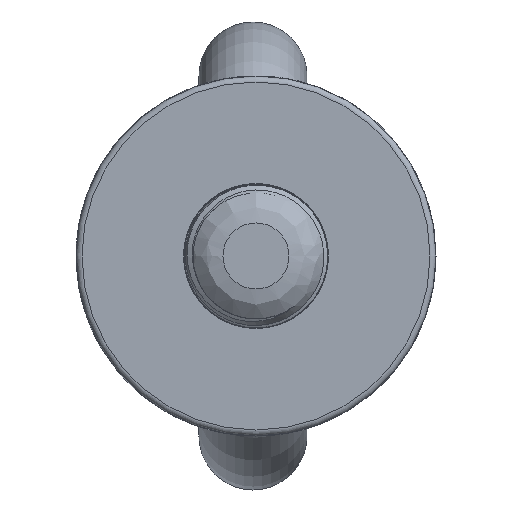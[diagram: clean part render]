
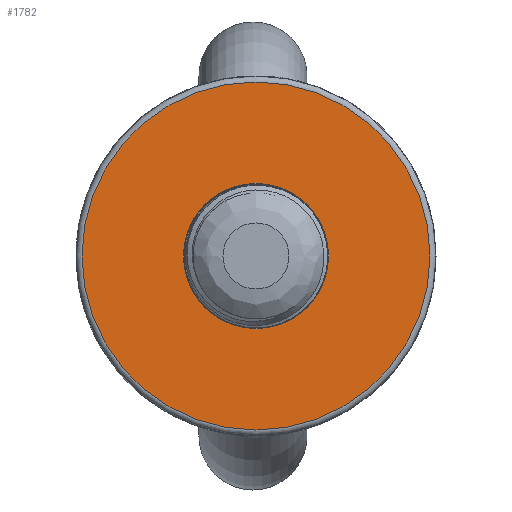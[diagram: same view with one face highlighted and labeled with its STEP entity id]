
A CAD part, front view. The second image highlights one B-rep face of the part: STEP entity #1782.
In plain terms, the highlighted planar face has unit normal (0, -1, 0).
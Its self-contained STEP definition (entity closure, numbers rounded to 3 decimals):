
#212=PLANE('',#5418);
#1782=ADVANCED_FACE('',(#2078,#2079),#212,.F.);
#2078=FACE_BOUND('',#2221,.T.);
#2079=FACE_BOUND('',#2222,.T.);
#2221=EDGE_LOOP('',(#2988));
#2222=EDGE_LOOP('',(#2989));
#2988=ORIENTED_EDGE('',*,*,#4783,.F.);
#2989=ORIENTED_EDGE('',*,*,#4782,.T.);
#4224=VERTEX_POINT('',#9797);
#4225=VERTEX_POINT('',#9800);
#4782=EDGE_CURVE('',#4224,#4224,#5245,.T.);
#4783=EDGE_CURVE('',#4225,#4225,#5246,.T.);
#5245=CIRCLE('',#5415,29.);
#5246=CIRCLE('',#5417,12.1);
#5415=AXIS2_PLACEMENT_3D('',#9796,#5996,#5997);
#5417=AXIS2_PLACEMENT_3D('',#9799,#6000,#6001);
#5418=AXIS2_PLACEMENT_3D('',#9801,#6002,#6003);
#5996=DIRECTION('',(0.,-1.,0.));
#5997=DIRECTION('',(1.,0.,0.));
#6000=DIRECTION('',(0.,-1.,0.));
#6001=DIRECTION('',(1.,0.,0.));
#6002=DIRECTION('',(0.,1.,0.));
#6003=DIRECTION('',(-1.,0.,0.));
#9796=CARTESIAN_POINT('',(0.,-10.5,0.));
#9797=CARTESIAN_POINT('',(29.,-10.5,0.));
#9799=CARTESIAN_POINT('',(0.,-10.5,0.));
#9800=CARTESIAN_POINT('',(12.1,-10.5,0.));
#9801=CARTESIAN_POINT('',(29.,-10.5,0.));
